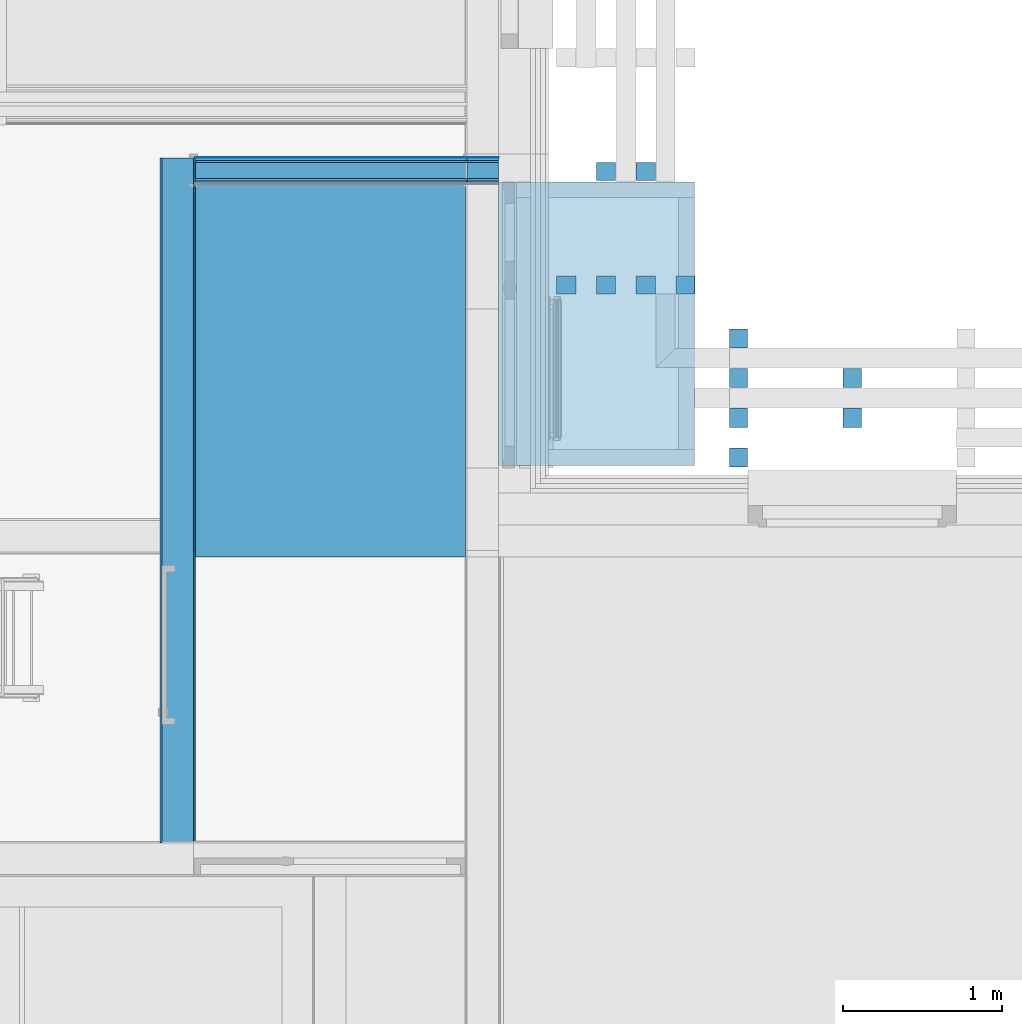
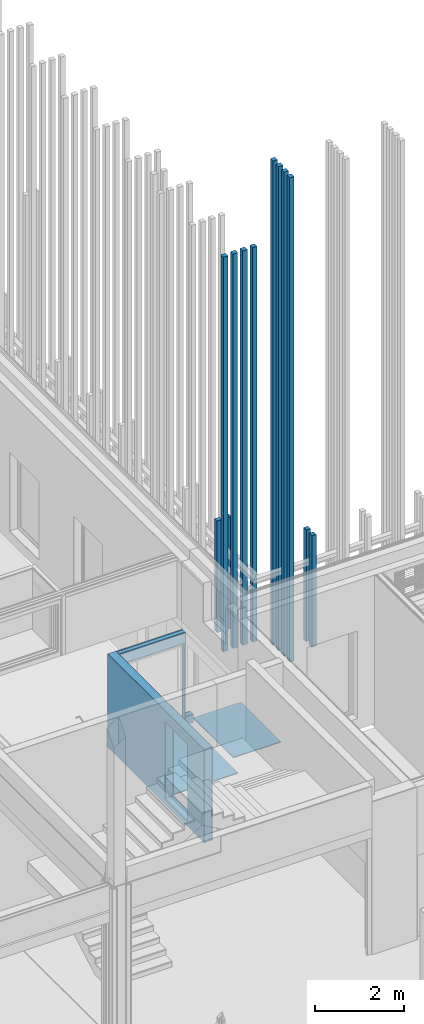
# One storey, part 178 of 260: 9 building element parts, 6 discrete accessories, 2 openings, 2 elements without a shape of their own.
"""IFC2X3 building model written with IfcOpenShell, lengths in millimetres."""

import ifcopenshell
import ifcopenshell.guid

model = None  # the IFC model being written
_history = None  # IfcOwnerHistory: only IFC2X3 demands one
_inside = {}  # id of a spatial element -> (the spatial element, [elements in it])
_under = {}  # id of a project, library or spatial element -> (it, [spatial elements below it])
_declared = {}  # id of a project -> (the project, [libraries it declares])
_typed = {}  # id of a type object -> (the type object, [elements of that type])
_made_of = {}  # id of a material, layer set ... -> (it, [elements and type objects made of it])


def new_model(schema):
    """Start an empty IFC model of exactly this schema.

    Asked for "IFC4X3", IfcOpenShell would pick the latest addendum, in which some entities
    have other attributes; the version numbers below select the first issue.
    IFC2X3 requires an IfcOwnerHistory on every rooted entity: one is made here for all.
    """
    global model, _history
    if schema == "IFC4X3":
        model = ifcopenshell.file(schema_version=(4, 3, 0, 0))
    else:
        model = ifcopenshell.file(schema=schema)
    _inside.clear()
    _under.clear()
    _declared.clear()
    _typed.clear()
    _made_of.clear()
    _history = None
    if model.schema == "IFC2X3":
        org = make("IfcOrganization", Name="unknown")
        user = make(
            "IfcPersonAndOrganization",
            ThePerson=make("IfcPerson", FamilyName="unknown"),
            TheOrganization=org,
        )
        app = make(
            "IfcApplication",
            ApplicationDeveloper=org,
            Version="unknown",
            ApplicationFullName="unknown",
            ApplicationIdentifier="unknown",
        )
        _history = make(
            "IfcOwnerHistory",
            OwningUser=user,
            OwningApplication=app,
            ChangeAction="ADDED",
            CreationDate=0,
        )
    return model


def make(cls, **values):
    """One entity of the class cls with the attributes given. An attribute that is None is left unset."""
    return model.create_entity(
        cls, **{name: value for name, value in values.items() if value is not None}
    )


def entity(cls, *values):
    """Any entity or typed value of the class cls, its attributes in the order of the schema. None: left unset."""
    e = model.create_entity(cls)
    for i, value in enumerate(values):
        if value is not None:
            e[i] = value
    return e


def rooted(cls, **values):
    """An entity with a GlobalId (a new one), such as an element, a storey or a relation."""
    return make(cls, GlobalId=ifcopenshell.guid.new(), OwnerHistory=_history, **values)


def si_unit(unit_type, name, prefix=None):
    """IfcSIUnit, for example si_unit("LENGTHUNIT", "METRE", prefix="MILLI")."""
    return make("IfcSIUnit", UnitType=unit_type, Prefix=prefix, Name=name)


def converted_unit(unit_type, name, factor, base, dimensions=None, offset=None):
    """IfcConversionBasedUnit, such as the inch: factor (a typed value) times the base unit."""
    return make(
        "IfcConversionBasedUnit"
        if offset is None
        else "IfcConversionBasedUnitWithOffset",
        ConversionOffset=offset,
        Dimensions=None
        if dimensions is None
        else entity("IfcDimensionalExponents", *dimensions),
        UnitType=unit_type,
        Name=name,
        ConversionFactor=make(
            "IfcMeasureWithUnit", ValueComponent=factor, UnitComponent=base
        ),
    )


def derived_unit(unit_type, elements):
    """IfcDerivedUnit: a product of units, each with its exponent."""
    return make(
        "IfcDerivedUnit",
        Elements=[
            make("IfcDerivedUnitElement", Unit=unit, Exponent=power)
            for unit, power in elements
        ],
        UnitType=unit_type,
    )


def money_unit(currency):
    """IfcMonetaryUnit."""
    return make("IfcMonetaryUnit", Currency=currency)


def assignment(units):
    """IfcUnitAssignment: the units of a project."""
    return None if units is None else make("IfcUnitAssignment", Units=units)


def point(xyz):
    """IfcCartesianPoint."""
    return None if xyz is None else make("IfcCartesianPoint", Coordinates=xyz)


def direction(xyz):
    """IfcDirection."""
    return None if xyz is None else make("IfcDirection", DirectionRatios=xyz)


def frame(location, z_axis=None, x_axis=None):
    """IfcAxis2Placement3D, a coordinate frame: its origin and axes. An axis left out is left unset."""
    return make(
        "IfcAxis2Placement3D",
        Location=point(location),
        Axis=direction(z_axis),
        RefDirection=direction(x_axis),
    )


def origin_with_axes():
    """The frame at (0, 0, 0) with the z axis (0, 0, 1) and the x axis (1, 0, 0) written out."""
    return frame((0.0, 0.0, 0.0), z_axis=(0.0, 0.0, 1.0), x_axis=(1.0, 0.0, 0.0))


def place(relative_to, where):
    """IfcLocalPlacement: puts the frame where relative to a parent placement (None: the world)."""
    return make(
        "IfcLocalPlacement", PlacementRelTo=relative_to, RelativePlacement=where
    )


def context(
    kind, dimensions, precision=None, world=None, true_north=None, identifier=None
):
    """IfcGeometricRepresentationContext, for example the 3D "Model" context."""
    return make(
        "IfcGeometricRepresentationContext",
        ContextIdentifier=identifier,
        ContextType=kind,
        CoordinateSpaceDimension=dimensions,
        Precision=precision,
        WorldCoordinateSystem=world,
        TrueNorth=true_north,
    )


def subcontext(parent, identifier, kind, view, scale=None):
    """IfcGeometricRepresentationSubContext, for example "Body" below "Model"."""
    return make(
        "IfcGeometricRepresentationSubContext",
        ContextIdentifier=identifier,
        ContextType=kind,
        ParentContext=parent,
        TargetScale=scale,
        TargetView=view,
    )


def project(units=None, contexts=None):
    """IfcProject with its units and contexts."""
    return rooted(
        "IfcProject",
        Name="project",
        RepresentationContexts=contexts,
        UnitsInContext=assignment(units),
    )


def spatial(cls, under=None, at=None, **own):
    """A site, building, storey or space (cls), placed at a placement, below another one or the project."""
    s = rooted(cls, ObjectPlacement=at, **own)
    if under is not None:
        _under.setdefault(under.id(), (under, []))[1].append(s)
    return s


def faces_of(points, faces, orient=None, outer=None):
    """IfcFace entities. A face is a list of loops; a loop is a list of indices into points, from 0.

    orient and outer hold one flag for each loop. By default every Orientation is true, the
    first loop of a face is its IfcFaceOuterBound and the others are IfcFaceBound.
    """
    made = []
    for i, loops in enumerate(faces):
        bounds = []
        for j, loop in enumerate(loops):
            is_outer = j == 0 if outer is None else outer[i][j]
            bounds.append(
                make(
                    "IfcFaceOuterBound" if is_outer else "IfcFaceBound",
                    Bound=make("IfcPolyLoop", Polygon=[points[k] for k in loop]),
                    Orientation=True if orient is None else orient[i][j],
                )
            )
        made.append(make("IfcFace", Bounds=bounds))
    return made


def faceted_brep(points, faces, orient=None, outer=None, voids=None):
    """IfcFacetedBrep: a solid bounded by flat faces; with voids (closed shells), ...WithVoids."""
    shared = [point(p) for p in points]
    hull = make("IfcClosedShell", CfsFaces=faces_of(shared, faces, orient, outer))
    if voids is None:
        return make("IfcFacetedBrep", Outer=hull)
    return make(
        "IfcFacetedBrepWithVoids",
        Outer=hull,
        Voids=[
            make(cls, CfsFaces=faces_of(shared, fs, o, b)) for cls, fs, o, b in voids
        ],
    )


def shape(context_of_items, identifier, shape_type, items):
    """IfcShapeRepresentation: the items that make up one representation, for example the "Body"."""
    return make(
        "IfcShapeRepresentation",
        ContextOfItems=context_of_items,
        RepresentationIdentifier=identifier,
        RepresentationType=shape_type,
        Items=items,
    )


def material(Name=None, Category=None):
    """IfcMaterial."""
    return make("IfcMaterial", Name=Name, Category=Category)


def material_list(materials):
    """IfcMaterialList."""
    return make("IfcMaterialList", Materials=materials)


def made_of(thing, what):
    """Note that an element or type object is made of a material, layer set ...; save() writes the relation."""
    if what is not None:
        _made_of.setdefault(what.id(), (what, []))[1].append(thing)
    return thing


def type_object(cls, material=None, **own):
    """A type object (cls), such as IfcWallType, which elements share."""
    return made_of(rooted(cls, **own), material)


def element(
    cls,
    number,
    at=None,
    inside=None,
    cuts=None,
    type_object=None,
    material=None,
    context=None,
    identifier="Body",
    shape_type=None,
    held_by="IfcProductDefinitionShape",
    body=None,
    shapes=None,
    **own,
):
    """One element of the class cls, such as IfcWall. Its Tag is "e" and its number.

    at: its placement. inside: the storey or other place that contains it. cuts: it is an
    opening in that element (IfcRelVoidsElement). A single representation is given by context,
    identifier, shape_type and body (its items); several are given by shapes. held_by: the class
    of the entity that holds the representations. save() writes the other relations.
    """
    e = rooted(cls, Tag="e%d" % number, ObjectPlacement=at, **own)
    if body is not None:
        shapes = [shape(context, identifier, shape_type, body)]
    if shapes is not None:
        e.Representation = make(held_by, Representations=shapes)
    if inside is not None:
        _inside.setdefault(inside.id(), (inside, []))[1].append(e)
    if cuts is not None:
        rooted(
            "IfcRelVoidsElement", RelatingBuildingElement=cuts, RelatedOpeningElement=e
        )
    if type_object is not None:
        _typed.setdefault(type_object.id(), (type_object, []))[1].append(e)
    return made_of(e, material)


def aggregate(whole, parts):
    """IfcRelAggregates: a whole, such as a stair, and the parts it consists of."""
    return rooted("IfcRelAggregates", RelatingObject=whole, RelatedObjects=parts)


def save(model, path):
    """Write the relations noted so far, then the file.

    IfcRelAggregates (storeys below a building ...), IfcRelContainedInSpatialStructure (elements
    in a storey), IfcRelDefinesByType, IfcRelAssociatesMaterial and IfcRelDeclares: one each for
    every whole, place, type object, material and project.
    """
    for whole, parts in _under.values():
        aggregate(whole, parts)
    for where, things in _inside.values():
        rooted(
            "IfcRelContainedInSpatialStructure",
            RelatedElements=things,
            RelatingStructure=where,
        )
    for kind, things in _typed.values():
        rooted("IfcRelDefinesByType", RelatedObjects=things, RelatingType=kind)
    for what, things in _made_of.values():
        rooted("IfcRelAssociatesMaterial", RelatedObjects=things, RelatingMaterial=what)
    for by, libraries in _declared.values():
        rooted("IfcRelDeclares", RelatingContext=by, RelatedDefinitions=libraries)
    model.write(path)


model = new_model("IFC2X3")

# Units and contexts
model_context = context("Model", 3, precision=0.01, world=origin_with_axes(), true_north=direction((0.0, 1.0)))
body_context = subcontext(model_context, "Body", "Model", "MODEL_VIEW")
ifc_project = project(units=[si_unit("LENGTHUNIT", "METRE", prefix="MILLI"), si_unit("AREAUNIT", "SQUARE_METRE"), si_unit("VOLUMEUNIT", "CUBIC_METRE"), converted_unit("PLANEANGLEUNIT", "DEGREE", entity("IfcPlaneAngleMeasure", 0.0174532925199), si_unit("PLANEANGLEUNIT", "RADIAN"), dimensions=[0, 0, 0, 0, 0, 0, 0]), money_unit("EUR"), converted_unit("TIMEUNIT", "Year", entity("IfcTimeMeasure", 31556926.0), si_unit("TIMEUNIT", "SECOND"), dimensions=[0, 0, 1, 0, 0, 0, 0]), si_unit("MASSUNIT", "GRAM", prefix="KILO"), si_unit("THERMODYNAMICTEMPERATUREUNIT", "DEGREE_CELSIUS"), si_unit("LUMINOUSINTENSITYUNIT", "LUMEN"), si_unit("ENERGYUNIT", "JOULE", prefix="MEGA"), derived_unit("THERMALCONDUCTANCEUNIT", [(si_unit("POWERUNIT", "WATT"), 1), (si_unit("LENGTHUNIT", "METRE"), -1), (si_unit("THERMODYNAMICTEMPERATUREUNIT", "KELVIN"), -1)]), derived_unit("SPECIFICHEATCAPACITYUNIT", [(si_unit("ENERGYUNIT", "JOULE"), 1), (si_unit("MASSUNIT", "GRAM", prefix="KILO"), -1), (si_unit("THERMODYNAMICTEMPERATUREUNIT", "KELVIN"), -1)]), derived_unit("MASSDENSITYUNIT", [(si_unit("MASSUNIT", "GRAM", prefix="KILO"), 1), (si_unit("VOLUMEUNIT", "CUBIC_METRE"), -1)])], contexts=[model_context])

# Site, building, storey
site_placement = place(None, origin_with_axes())
site = spatial("IfcSite", under=ifc_project, at=site_placement, Name="Kolde pst 67a", CompositionType="ELEMENT")
building_placement = place(site_placement, origin_with_axes())
building = spatial("IfcBuilding", under=site, at=building_placement, Name="Riigigümnaasium", CompositionType="ELEMENT")
storey_placement = place(building_placement, origin_with_axes())
storey = spatial("IfcBuildingStorey", under=building, at=storey_placement, Name="1. korrus", CompositionType="ELEMENT", Elevation=0.0)

# Discrete accessories
ifc_material_1 = material(Name="_VÄLISVIIMISTLUS - sõrmjätkatud puitprussid 120x115mm, liitekohad vähemärgatavad, Platowood sõrmjätkatud kuusk või samaväärne; eeltöödeldud tuletõkkevõõbaga, tuletundlikkus B-s1, d0, Woodsafe Exterior WFX™ või samaväärne; kinnitused vastavalt EK osale")
ifc_material_list_1 = material_list([ifc_material_1, ifc_material_1, ifc_material_1, ifc_material_1])
discrete_accessory_type_1 = type_object("IfcDiscreteAccessoryType", Name="120 4-ne vertikaalne 870 x 115")
discrete_accessory_1_placement = place(storey_placement, frame((61961.6533711, 36791.9936289, 2100.0), z_axis=(0.0, 0.0, 1.0), x_axis=(-6.32316306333e-05, -0.999999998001, 0.0)))
element("IfcDiscreteAccessory", 1, at=discrete_accessory_1_placement, inside=storey, type_object=discrete_accessory_type_1, material=ifc_material_list_1, Name="Päikesevarjestus", context=body_context, shape_type="Brep", body=[
    faceted_brep([(-133.0, -70.0, 0.0), (-13.0, -70.0, 0.0), (-13.0, -70.0, 13230.0), (-133.0, -70.0, 13230.0), (-133.0, 45.0, 0.0), (-13.0, 45.0, 0.0), (-13.0, 45.0, 13230.0), (-133.0, 45.0, 13230.0)], [[[0, 1, 2, 3]], [[0, 4, 5, 1]], [[1, 5, 6, 2]], [[3, 2, 6, 7]], [[4, 0, 3, 7]], [[5, 4, 7, 6]]]),
    faceted_brep([(-383.0, -70.0, 0.0), (-263.0, -70.0, 0.0), (-263.0, -70.0, 13230.0), (-383.0, -70.0, 13230.0), (-383.0, 45.0, 0.0), (-263.0, 45.0, 0.0), (-263.0, 45.0, 13230.0), (-383.0, 45.0, 13230.0)], [[[0, 1, 2, 3]], [[0, 4, 5, 1]], [[1, 5, 6, 2]], [[3, 2, 6, 7]], [[4, 0, 3, 7]], [[5, 4, 7, 6]]]),
    faceted_brep([(-633.0, -70.0, 0.0), (-513.0, -70.0, 0.0), (-513.0, -70.0, 13230.0), (-633.0, -70.0, 13230.0), (-633.0, 45.0, 0.0), (-513.0, 45.0, 0.0), (-513.0, 45.0, 13230.0), (-633.0, 45.0, 13230.0)], [[[0, 1, 2, 3]], [[0, 4, 5, 1]], [[1, 5, 6, 2]], [[3, 2, 6, 7]], [[4, 0, 3, 7]], [[5, 4, 7, 6]]]),
    faceted_brep([(-883.0, -70.0, 0.0), (-763.0, -70.0, 0.0), (-763.0, -70.0, 13230.0), (-883.0, -70.0, 13230.0), (-883.0, 45.0, 0.0), (-763.0, 45.0, 0.0), (-763.0, 45.0, 13230.0), (-883.0, 45.0, 13230.0)], [[[0, 1, 2, 3]], [[0, 4, 5, 1]], [[1, 5, 6, 2]], [[3, 2, 6, 7]], [[4, 0, 3, 7]], [[5, 4, 7, 6]]]),
])
discrete_accessory_2_placement = place(storey_placement, frame((60791.9940409, 37937.4998197, 2100.0), z_axis=(0.0, 0.0, 1.0), x_axis=(-0.999999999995, -3.13999128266e-06, 0.0)))
element("IfcDiscreteAccessory", 2, at=discrete_accessory_2_placement, inside=storey, type_object=discrete_accessory_type_1, material=ifc_material_list_1, Name="Päikesevarjestus", context=body_context, shape_type="Brep", body=[
    faceted_brep([(-133.0, -70.0, 0.0), (-13.0, -70.0, 0.0), (-13.0, -70.0, 10780.0), (-133.0, -70.0, 10780.0), (-133.0, 45.0, 0.0), (-13.0, 45.0, 0.0), (-13.0, 45.0, 10780.0), (-133.0, 45.0, 10780.0)], [[[0, 1, 2, 3]], [[0, 4, 5, 1]], [[1, 5, 6, 2]], [[3, 2, 6, 7]], [[4, 0, 3, 7]], [[5, 4, 7, 6]]]),
    faceted_brep([(-383.0, -70.0, 0.0), (-263.0, -70.0, 0.0), (-263.0, -70.0, 10780.0), (-383.0, -70.0, 10780.0), (-383.0, 45.0, 0.0), (-263.0, 45.0, 0.0), (-263.0, 45.0, 10780.0), (-383.0, 45.0, 10780.0)], [[[0, 1, 2, 3]], [[0, 4, 5, 1]], [[1, 5, 6, 2]], [[3, 2, 6, 7]], [[4, 0, 3, 7]], [[5, 4, 7, 6]]]),
    faceted_brep([(-633.0, -70.0, 0.0), (-513.0, -70.0, 0.0), (-513.0, -70.0, 10780.0), (-633.0, -70.0, 10780.0), (-633.0, 45.0, 0.0), (-513.0, 45.0, 0.0), (-513.0, 45.0, 10780.0), (-633.0, 45.0, 10780.0)], [[[0, 1, 2, 3]], [[0, 4, 5, 1]], [[1, 5, 6, 2]], [[3, 2, 6, 7]], [[4, 0, 3, 7]], [[5, 4, 7, 6]]]),
    faceted_brep([(-883.0, -70.0, 0.0), (-763.0, -70.0, 0.0), (-763.0, -70.0, 10780.0), (-883.0, -70.0, 10780.0), (-883.0, 45.0, 0.0), (-763.0, 45.0, 0.0), (-763.0, 45.0, 10780.0), (-883.0, 45.0, 10780.0)], [[[0, 1, 2, 3]], [[0, 4, 5, 1]], [[1, 5, 6, 2]], [[3, 2, 6, 7]], [[4, 0, 3, 7]], [[5, 4, 7, 6]]]),
])
ifc_material_list_2 = material_list([ifc_material_1, ifc_material_1])
discrete_accessory_type_2 = type_object("IfcDiscreteAccessoryType", Name="1+paiksekaitse 3 370 x 115")
for number, where, z_axis, x_axis in (
    (3, (62605.0448221, 37771.9921115, 2100.00014213), (0.0, 0.0, 1.0), (0.0, -1.0, 0.0)),
    (4, (61771.9937454, 38725.0015421, 2100.00014213), (0.0, 0.0, 1.0), (-1.0, 0.0, 0.0)),
):
    element("IfcDiscreteAccessory", number, at=place(storey_placement, frame(where, z_axis=z_axis, x_axis=x_axis)), inside=storey, type_object=discrete_accessory_type_2, material=ifc_material_list_2, Name="Päikesevarjestus", context=body_context, shape_type="Brep", body=[
        faceted_brep([(467.0, 117.5, 0.0), (347.0, 117.5, 0.0), (347.0, 117.5, 3050.0), (467.0, 117.5, 3050.0), (467.0, 2.5, 0.0), (347.0, 2.5, 0.0), (347.0, 2.5, 3050.0), (467.0, 2.5, 3050.0)], [[[0, 1, 2, 3]], [[0, 4, 5, 1]], [[1, 5, 6, 2]], [[3, 2, 6, 7]], [[4, 0, 3, 7]], [[5, 4, 7, 6]]]),
        faceted_brep([(717.0, 117.5, 0.0), (597.0, 117.5, 0.0), (597.0, 117.5, 3050.0), (717.0, 117.5, 3050.0), (717.0, 2.5, 0.0), (597.0, 2.5, 0.0), (597.0, 2.5, 3050.0), (717.0, 2.5, 3050.0)], [[[0, 1, 2, 3]], [[0, 4, 5, 1]], [[1, 5, 6, 2]], [[3, 2, 6, 7]], [[4, 0, 3, 7]], [[5, 4, 7, 6]]]),
    ])
ifc_material_2 = material(Name="_METALL - teras")
discrete_accessory_type_3 = type_object("IfcDiscreteAccessoryType", Name="_METALL - teras 22")
discrete_accessory_3_placement = place(storey_placement, frame((58529.9488767, 36239.9996998, 0.0), z_axis=(0.0, 0.0, 1.0), x_axis=(1.0, 0.0, 0.0)))
element("IfcDiscreteAccessory", 5, at=discrete_accessory_3_placement, inside=storey, type_object=discrete_accessory_type_3, material=ifc_material_2, Name="süvistatud poritõkkesüsteem 22 mm vastavalt SA osale", context=body_context, shape_type="Brep", body=[
    faceted_brep([(0.0, 0.0, 0.0), (0.0, 0.0, -22.0), (1700.04524547, 0.0, -22.0), (1700.04524547, 0.0, 0.0), (0.0, 2344.98113413, 0.0), (0.0, 2344.98113413, -22.0), (1700.04524547, 2344.98113413, -22.0), (1700.04524547, 2344.98113413, 0.0)], [[[0, 1, 2, 3]], [[4, 5, 1, 0]], [[2, 1, 5, 6]], [[3, 2, 6, 7]], [[4, 0, 3, 7]], [[7, 6, 5, 4]]]),
])
discrete_accessory_4_placement = place(storey_placement, frame((60439.9941222, 36815.17599, 0.0), z_axis=(0.0, 0.0, 1.0), x_axis=(1.0, 0.0, 0.0)))
element("IfcDiscreteAccessory", 6, at=discrete_accessory_4_placement, inside=storey, type_object=discrete_accessory_type_3, material=ifc_material_2, Name="30mm süvistatud roostevaba porirest betoonalusel vastavalt EK osale, kalle kaevu poole ≥1:80; resti silm 33x11mm, hambuline; porirest eemaldatav puhastuseks; vt joonist AR-7-207; sadevee kogumiseks resti all settepõhjaga restkaev, maapinnast -200mm kõrgusel, vesi koguneb sadeveetorustikku, vt VK osa", context=body_context, shape_type="Brep", body=[
    faceted_brep([(0.0, 0.0, 0.0), (0.0, 0.0, -22.0), (1231.2965138, 0.0, -22.0), (1231.2965138, 0.0, 0.0), (0.0, 1784.80484393, 0.0), (0.0, 1784.80484393, -22.0), (1231.2965138, 1784.80484393, -22.0), (1231.2965138, 1784.80484393, 0.0)], [[[0, 1, 2, 3]], [[4, 5, 1, 0]], [[2, 1, 5, 6]], [[3, 2, 6, 7]], [[4, 0, 3, 7]], [[7, 6, 5, 4]]]),
])

# Wall, opening, building element parts
wall_type_1 = type_object("IfcWallType", Name="SS-RB-20/1_+2 krohv 55 dB 220", PredefinedType="NOTDEFINED")
wall_1_placement = place(storey_placement, frame((58529.9488767, 34439.9999729, -150.0), z_axis=(0.0, 0.0, 1.0), x_axis=(0.0, 1.0, 0.0)))
wall_1 = element("IfcWall", 7, at=wall_1_placement, inside=storey, type_object=wall_type_1, Name="Sisesein")
opening_1_placement = place(wall_1_placement, frame((1244.99972566, 0.0, 150.0), z_axis=(0.0, 0.0, 1.0), x_axis=(1.0, 0.0, 0.0)))
element("IfcOpeningElement", 8, at=opening_1_placement, cuts=wall_1, Name="Siseuks", context=body_context, shape_type="Brep", body=[
    faceted_brep([(500.0, -220.0, 2100.0), (500.0, -220.0, 0.0), (500.0, 440.0, 0.0), (500.0, 440.0, 2100.0), (-500.0, -220.0, 2100.0), (-500.0, -220.0, 0.0), (-500.0, 440.0, 0.0), (-500.0, 440.0, 2100.0)], [[[0, 1, 2, 3]], [[0, 4, 5, 1]], [[1, 5, 6, 2]], [[3, 2, 6, 7]], [[4, 0, 3, 7]], [[5, 4, 7, 6]]]),
])
ifc_material_3 = material(Name="_VIIMISTLUSKIHT - viimistlus vastavalt SA osale")
building_element_part_1_placement = place(wall_1_placement, origin_with_axes())
building_element_part_1 = element("IfcBuildingElementPart", 9, at=building_element_part_1_placement, material=ifc_material_3, Name="_VIIMISTLUSKIHT - viimistlus vastavalt SA osale", context=body_context, shape_type="Brep", body=[
    faceted_brep([(4308.8677439, 220.0, 0.0), (0.0, 220.0, 0.0), (0.0, 220.0, 2550.0), (4308.8677439, 220.0, 2550.0), (744.999725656, 220.0, 150.0), (1744.99972566, 220.0, 150.0), (1744.99972566, 220.0, 2250.0), (744.999725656, 220.0, 2250.0), (4308.8677439, 210.0, 0.0), (0.0, 210.0, 0.0), (0.0, 210.0, 2550.0), (4308.8677439, 210.0, 2550.0), (744.999725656, 210.0, 150.0), (1744.99972566, 210.0, 150.0), (1744.99972566, 210.0, 2250.0), (744.999725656, 210.0, 2250.0)], [[[0, 1, 2, 3], [4, 5, 6, 7]], [[8, 9, 1, 0]], [[9, 10, 2, 1]], [[3, 2, 10, 11]], [[3, 11, 8, 0]], [[12, 13, 5, 4]], [[13, 14, 6, 5]], [[14, 15, 7, 6]], [[15, 12, 4, 7]], [[11, 10, 9, 8], [12, 15, 14, 13]]]),
])
ifc_material_4 = material(Name="_KANDETARIND - monteeritav raudbetoon vastavalt EK osale")
building_element_part_2_placement = place(wall_1_placement, origin_with_axes())
building_element_part_2 = element("IfcBuildingElementPart", 10, at=building_element_part_2_placement, material=ifc_material_4, Name="_KANDETARIND - monteeritav raudbetoon vastavalt EK osale", context=body_context, shape_type="Brep", body=[
    faceted_brep([(4308.8677439, 210.0, 0.0), (0.0, 210.0, 0.0), (0.0, 210.0, 2550.0), (4308.8677439, 210.0, 2550.0), (744.999725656, 210.0, 150.0), (1744.99972566, 210.0, 150.0), (1744.99972566, 210.0, 2250.0), (744.999725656, 210.0, 2250.0), (4308.8677439, 10.0, 0.0), (0.0, 10.0, 0.0), (0.0, 10.0, 2550.0), (4308.8677439, 10.0, 2550.0), (744.999725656, 10.0, 150.0), (1744.99972566, 10.0, 150.0), (1744.99972566, 10.0, 2250.0), (744.999725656, 10.0, 2250.0)], [[[0, 1, 2, 3], [4, 5, 6, 7]], [[8, 9, 1, 0]], [[9, 10, 2, 1]], [[3, 2, 10, 11]], [[3, 11, 8, 0]], [[12, 13, 5, 4]], [[13, 14, 6, 5]], [[14, 15, 7, 6]], [[15, 12, 4, 7]], [[11, 10, 9, 8], [12, 15, 14, 13]]]),
])
building_element_part_3_placement = place(wall_1_placement, origin_with_axes())
building_element_part_3 = element("IfcBuildingElementPart", 11, at=building_element_part_3_placement, material=ifc_material_3, Name="_VIIMISTLUSKIHT - viimistlus vastavalt SA osale", context=body_context, shape_type="Brep", body=[
    faceted_brep([(4308.8677439, 10.0, 0.0), (0.0, 10.0, 0.0), (0.0, 10.0, 2550.0), (4308.8677439, 10.0, 2550.0), (744.999725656, 10.0, 150.0), (1744.99972566, 10.0, 150.0), (1744.99972566, 10.0, 2250.0), (744.999725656, 10.0, 2250.0), (4308.8677439, 0.0, 0.0), (0.0, 0.0, 0.0), (0.0, 0.0, 2550.0), (4308.8677439, 0.0, 2550.0), (744.999725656, 0.0, 150.0), (1744.99972566, 0.0, 150.0), (1744.99972566, 0.0, 2250.0), (744.999725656, 0.0, 2250.0)], [[[0, 1, 2, 3], [4, 5, 6, 7]], [[8, 9, 1, 0]], [[9, 10, 2, 1]], [[3, 2, 10, 11]], [[3, 11, 8, 0]], [[12, 13, 5, 4]], [[13, 14, 6, 5]], [[14, 15, 7, 6]], [[15, 12, 4, 7]], [[11, 10, 9, 8], [12, 15, 14, 13]]]),
])
aggregate(wall_1, [building_element_part_1, building_element_part_2, building_element_part_3])

wall_type_2 = type_object("IfcWallType", Name="SS-PK-10/9_vill100+2värv 170", PredefinedType="NOTDEFINED")
wall_2_placement = place(storey_placement, frame((58529.9488767, 38584.9808339, -115.0), z_axis=(0.0, 0.0, 1.0), x_axis=(1.0, 0.0, 0.0)))
wall_2 = element("IfcWall", 12, at=wall_2_placement, inside=storey, type_object=wall_type_2, Name="Sisesein")
opening_2_placement = place(wall_2_placement, frame((850.045245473, 0.0, 115.0), z_axis=(0.0, 0.0, 1.0), x_axis=(1.0, 0.0, 0.0)))
element("IfcOpeningElement", 13, at=opening_2_placement, cuts=wall_2, Name="Siseuks", context=body_context, shape_type="Brep", body=[
    faceted_brep([(-850.0, 340.0, 2100.0), (-850.0, 340.0, 0.0), (-850.0, -170.0, 0.0), (-850.0, -170.0, 2100.0), (850.0, 340.0, 2100.0), (850.0, 340.0, 0.0), (850.0, -170.0, 0.0), (850.0, -170.0, 2100.0)], [[[0, 1, 2, 3]], [[0, 4, 5, 1]], [[1, 5, 6, 2]], [[3, 2, 6, 7]], [[4, 0, 3, 7]], [[5, 4, 7, 6]]]),
    faceted_brep([(-887.0, 0.0, 2137.0), (-887.0, 0.0, 0.0), (-887.0, -170.0, 0.0), (-887.0, -170.0, 2137.0), (887.0, 0.0, 2137.0), (887.0, 0.0, 0.0), (887.0, -170.0, 0.0), (887.0, -170.0, 2137.0)], [[[0, 1, 2, 3]], [[0, 4, 5, 1]], [[1, 5, 6, 2]], [[3, 2, 6, 7]], [[4, 0, 3, 7]], [[5, 4, 7, 6]]]),
    faceted_brep([(-887.0, 170.0, 0.0), (-887.0, 170.0, 2137.0), (-887.0, 340.0, 2137.0), (-887.0, 340.0, 0.0), (887.0, 170.0, 0.0), (887.0, 170.0, 2137.0), (887.0, 340.0, 2137.0), (887.0, 340.0, 0.0)], [[[0, 1, 2, 3]], [[0, 4, 5, 1]], [[1, 5, 6, 2]], [[3, 2, 6, 7]], [[4, 0, 3, 7]], [[5, 4, 7, 6]]]),
])
building_element_part_4_placement = place(wall_2_placement, origin_with_axes())
building_element_part_4 = element("IfcBuildingElementPart", 14, at=building_element_part_4_placement, material=ifc_material_3, Name="_VIIMISTLUSKIHT - viimistlus vastavalt SA osale", context=body_context, shape_type="Brep", body=[
    faceted_brep([(1700.04524547, 170.0, 115.0), (1700.04524547, 169.999999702, 215.0), (1910.04524547, 169.999999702, 215.0), (1910.04524547, 169.999999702, 0.0), (1736.31164378, 169.999999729, 0.0), (1736.31164378, 170.0, 115.0), (1700.04524547, 164.999998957, 215.0), (1700.04524547, 164.999998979, 115.0), (1910.04524547, 164.999998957, 215.0), (1910.04524547, 164.999998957, 0.0), (1736.31164378, 164.999999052, 0.0), (1736.31164378, 164.999998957, 115.0)], [[[0, 1, 2, 3, 4, 5]], [[6, 1, 0, 7]], [[1, 6, 8, 2]], [[2, 8, 9, 3]], [[4, 3, 9, 10]], [[5, 4, 10, 11]], [[7, 0, 5, 11]], [[6, 7, 11, 10, 9, 8]]]),
    faceted_brep([(1700.04524547, 164.999999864, 2215.0), (1700.04524547, 169.999999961, 2215.0), (1700.04524547, 170.0, 2515.0), (1700.04524547, 165.0, 2515.0), (0.0452454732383, 170.0, 2215.0), (0.0452454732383, 164.999998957, 2215.0), (0.0452454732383, 170.0, 115.0), (0.0, 170.0, 115.0), (0.0, 170.0, 2515.0), (0.0, 165.0, 2515.0), (0.0, 165.0, 115.0), (0.0452454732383, 165.0, 115.0)], [[[0, 1, 2, 3]], [[4, 1, 0, 5]], [[4, 6, 7, 8, 2, 1]], [[3, 2, 8, 9]], [[5, 0, 3, 9, 10, 11]], [[6, 4, 5, 11]], [[6, 11, 10, 7]], [[10, 9, 8, 7]]]),
])
ifc_material_5 = material(Name="_PLAATMATERJAL - tuletõkkekipsplaat, Knauf Red GKF või samaväärne")
building_element_part_5_placement = place(wall_2_placement, origin_with_axes())
building_element_part_5 = element("IfcBuildingElementPart", 15, at=building_element_part_5_placement, material=ifc_material_5, Name="_PLAATMATERJAL - tuletõkkekipsplaat, Knauf Red GKF või samaväärne", context=body_context, shape_type="Brep", body=[
    faceted_brep([(0.0452454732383, 165.0, 2215.0), (0.0452454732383, 165.0, 115.0), (0.0, 165.0, 115.0), (0.0, 165.0, 2515.0), (1710.04524547, 165.0, 2515.0), (1710.04524547, 164.999998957, 215.0), (1910.04524547, 164.999998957, 215.0), (1910.04524547, 164.999998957, 0.0), (1736.31164378, 164.999999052, 0.0), (1736.31164378, 165.0, 115.0), (1700.04524547, 165.0, 115.0), (1700.04524547, 165.0, 2215.0), (0.0452454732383, 149.999999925, 2215.0), (0.0452454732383, 150.0, 115.0), (0.0, 150.0, 115.0), (0.0, 150.0, 2515.0), (1710.04524547, 150.0, 2515.0), (1710.04524547, 149.999999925, 215.0), (1910.04524547, 149.999999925, 215.0), (1910.04524547, 149.999999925, 0.0), (1736.31164378, 149.999999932, 0.0), (1736.31164378, 149.999999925, 115.0), (1700.04524547, 149.999999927, 115.0), (1700.04524547, 149.999999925, 2215.0)], [[[0, 1, 2, 3, 4, 5, 6, 7, 8, 9, 10, 11]], [[1, 0, 12, 13]], [[1, 13, 14, 2]], [[14, 15, 3, 2]], [[16, 4, 3, 15]], [[5, 4, 16, 17]], [[18, 6, 5, 17]], [[6, 18, 19, 7]], [[8, 7, 19, 20]], [[9, 8, 20, 21]], [[22, 10, 9, 21]], [[11, 10, 22, 23]], [[0, 11, 23, 12]], [[23, 22, 21, 20, 19, 18, 17, 16, 15, 14, 13, 12]]]),
])
ifc_material_6 = material(Name="_PLAATMATERJAL - OSB3 plaat")
building_element_part_6_placement = place(wall_2_placement, origin_with_axes())
building_element_part_6 = element("IfcBuildingElementPart", 16, at=building_element_part_6_placement, material=ifc_material_6, Name="_PLAATMATERJAL - OSB3 plaat", context=body_context, shape_type="Brep", body=[
    faceted_brep([(0.0452454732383, 150.0, 2215.0), (0.0452454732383, 150.0, 115.0), (0.0, 150.0, 115.0), (0.0, 150.0, 2515.0), (1710.04524547, 150.0, 2515.0), (1710.04524547, 149.999999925, 215.0), (1910.04524547, 149.999999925, 215.0), (1910.04524547, 149.999999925, 0.0), (1736.31164378, 149.999999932, 0.0), (1736.31164378, 150.0, 115.0), (1700.04524547, 150.0, 115.0), (1700.04524547, 150.0, 2215.0), (0.0452454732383, 135.000000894, 2215.0), (0.0452454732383, 135.0, 115.0), (0.0, 135.0, 115.0), (0.0, 135.0, 2515.0), (1710.04524547, 135.0, 2515.0), (1710.04524547, 135.000000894, 215.0), (1910.04524547, 135.000000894, 215.0), (1910.04524547, 135.000000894, 0.0), (1736.31164378, 135.000000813, 0.0), (1736.31164378, 135.000000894, 115.0), (1700.04524547, 135.000000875, 115.0), (1700.04524547, 135.000000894, 2215.0)], [[[0, 1, 2, 3, 4, 5, 6, 7, 8, 9, 10, 11]], [[1, 0, 12, 13]], [[1, 13, 14, 2]], [[14, 15, 3, 2]], [[16, 4, 3, 15]], [[5, 4, 16, 17]], [[18, 6, 5, 17]], [[6, 18, 19, 7]], [[8, 7, 19, 20]], [[9, 8, 20, 21]], [[22, 10, 9, 21]], [[11, 10, 22, 23]], [[0, 11, 23, 12]], [[23, 22, 21, 20, 19, 18, 17, 16, 15, 14, 13, 12]]]),
])
ifc_material_7 = material(Name="_KARKASS - puitpruss 100x50mm vertikaalne, samm 600mm, vahel mineraalvill, helineeldetegur αw = 1.0, ISOVER ACOUSTIC 100mm või samaväärne")
building_element_part_7_placement = place(wall_2_placement, origin_with_axes())
building_element_part_7 = element("IfcBuildingElementPart", 17, at=building_element_part_7_placement, material=ifc_material_7, Name="_KARKASS - puitpruss 100x50mm vertikaalne, samm 600mm, vahel mineraalvill, helineeldetegur αw = 1.0, ISOVER ACOUSTIC 100mm või samaväärne", context=body_context, shape_type="Brep", body=[
    faceted_brep([(1710.04524547, 35.0, 2515.0), (0.0, 35.0, 2515.0), (0.0, 35.0, 14.9), (1736.31164378, 34.9999988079, 14.9), (1736.31164378, 34.9999989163, 0.0), (1910.04524547, 34.9999988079, 0.0), (1910.04524547, 34.9999988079, 215.0), (1710.04524547, 34.9999988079, 215.0), (0.0452454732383, 34.9999988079, 115.0), (0.0452454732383, 34.9999988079, 2215.0), (1700.04524547, 34.9999988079, 2215.0), (1700.04524547, 34.9999988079, 115.0), (1710.04524547, 135.0, 2515.0), (0.0, 135.0, 2515.0), (0.0, 135.0, 14.9), (1736.31164378, 135.0, 14.9), (1736.31164378, 135.000000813, 0.0), (1910.04524547, 135.000000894, 0.0), (1910.04524547, 135.000000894, 215.0), (1710.04524547, 135.000000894, 215.0), (0.0452454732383, 135.0, 115.0), (0.0452454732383, 135.0, 2215.0), (1700.04524547, 135.0, 2215.0), (1700.04524547, 135.0, 115.0)], [[[0, 1, 2, 3, 4, 5, 6, 7], [8, 9, 10, 11]], [[0, 12, 13, 1]], [[2, 1, 13, 14]], [[15, 3, 2, 14]], [[16, 4, 3, 15]], [[16, 17, 5, 4]], [[18, 6, 5, 17]], [[6, 18, 19, 7]], [[19, 12, 0, 7]], [[20, 21, 9, 8]], [[21, 22, 10, 9]], [[22, 23, 11, 10]], [[23, 20, 8, 11]], [[18, 17, 16, 15, 14, 13, 12, 19], [20, 23, 22, 21]]]),
])
building_element_part_8_placement = place(wall_2_placement, origin_with_axes())
building_element_part_8 = element("IfcBuildingElementPart", 18, at=building_element_part_8_placement, material=ifc_material_6, Name="_PLAATMATERJAL - OSB3 plaat", context=body_context, shape_type="Brep", body=[
    faceted_brep([(0.0452454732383, 35.0, 2215.0), (0.0452454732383, 35.0, 115.0), (0.0, 35.0, 115.0), (0.0, 35.0, 2515.0), (1710.04524547, 35.0, 2515.0), (1710.04524547, 34.9999988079, 215.0), (1910.04524547, 34.9999988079, 215.0), (1910.04524547, 34.9999988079, 0.0), (1736.31164378, 34.9999989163, 0.0), (1736.31164378, 35.0, 115.0), (1700.04524547, 35.0, 115.0), (1700.04524547, 35.0, 2215.0), (0.0452454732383, 19.9999997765, 2215.0), (0.0452454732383, 20.0, 115.0), (0.0, 20.0, 115.0), (0.0, 20.0, 2515.0), (1710.04524547, 20.0, 2515.0), (1710.04524547, 19.9999997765, 215.0), (1910.04524547, 19.9999997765, 215.0), (1910.04524547, 19.9999997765, 0.0), (1736.31164378, 19.9999997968, 0.0), (1736.31164378, 19.9999997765, 115.0), (1700.04524547, 19.9999997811, 115.0), (1700.04524547, 19.9999997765, 2215.0)], [[[0, 1, 2, 3, 4, 5, 6, 7, 8, 9, 10, 11]], [[1, 0, 12, 13]], [[1, 13, 14, 2]], [[14, 15, 3, 2]], [[16, 4, 3, 15]], [[5, 4, 16, 17]], [[18, 6, 5, 17]], [[6, 18, 19, 7]], [[8, 7, 19, 20]], [[9, 8, 20, 21]], [[22, 10, 9, 21]], [[11, 10, 22, 23]], [[0, 11, 23, 12]], [[23, 22, 21, 20, 19, 18, 17, 16, 15, 14, 13, 12]]]),
])
building_element_part_9_placement = place(wall_2_placement, origin_with_axes())
building_element_part_9 = element("IfcBuildingElementPart", 19, at=building_element_part_9_placement, material=ifc_material_5, Name="_PLAATMATERJAL - tuletõkkekipsplaat, Knauf Red GKF või samaväärne", context=body_context, shape_type="Brep", body=[
    faceted_brep([(1710.04524547, 15.0, 2215.0), (1710.04523638, 15.0, 215.0), (1710.04524547, 19.9999997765, 215.0), (1710.04524547, 20.0, 2515.0), (1710.04524547, 5.0, 2515.0), (1710.04524547, 5.00000009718, 2215.0), (1700.04523951, 15.0, 2215.0), (1700.04523951, 15.0, 215.0), (1710.04523638, 5.00000074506, 215.0), (1910.04524547, 5.00000074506, 215.0), (1910.04524547, 19.9999997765, 215.0), (1700.04524547, 20.0, 2215.0), (0.0452454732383, 20.0, 2215.0), (0.0452454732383, 20.0, 115.0), (0.0, 20.0, 115.0), (0.0, 20.0, 2515.0), (1910.04524547, 19.9999997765, 0.0), (1736.31164378, 19.9999997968, 0.0), (1736.31164378, 20.0, 115.0), (1700.04524547, 20.0, 115.0), (0.0, 5.0, 2515.0), (1700.04523951, 5.00000074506, 2215.0), (0.0, 5.0, 115.0), (0.0452454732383, 5.00000000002, 115.0), (0.0452454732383, 5.00000074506, 2215.0), (1700.04524547, 5.0000007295, 115.0), (1700.04523951, 5.00000073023, 215.0), (1736.31164378, 5.00000074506, 115.0), (1736.31164378, 5.00000067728, 0.0), (1910.04524547, 5.00000074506, 0.0)], [[[0, 1, 2, 3, 4, 5]], [[1, 0, 6, 7]], [[1, 8, 9, 10, 2]], [[11, 12, 13, 14, 15, 3, 2, 10, 16, 17, 18, 19]], [[20, 4, 3, 15]], [[21, 5, 4, 20, 22, 23, 24]], [[0, 5, 21, 6]], [[7, 6, 11, 19, 25, 26]], [[8, 1, 7, 26]], [[8, 26, 25, 27, 28, 29, 9]], [[16, 10, 9, 29]], [[6, 21, 24, 12, 11]], [[23, 13, 12, 24]], [[14, 13, 23, 22]], [[14, 22, 20, 15]], [[28, 17, 16, 29]], [[27, 18, 17, 28]], [[27, 25, 19, 18]]]),
])
aggregate(wall_2, [building_element_part_4, building_element_part_5, building_element_part_6, building_element_part_7, building_element_part_8, building_element_part_9])

save(model, "model.ifc")
